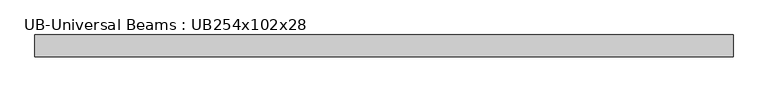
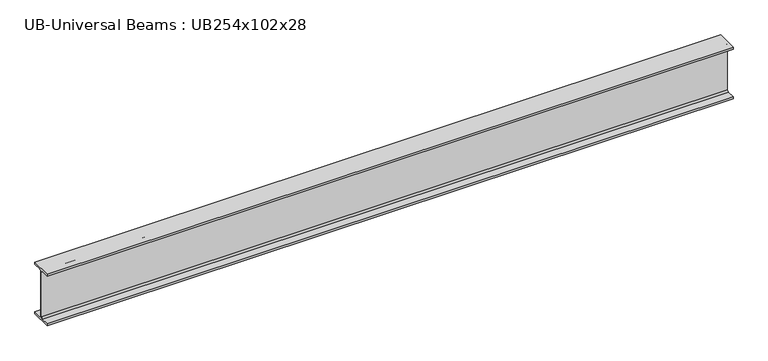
"""IFC4 building model written with IfcOpenShell, lengths in millimetres: beam geometry, UB-Universal Beams : UB254x102x28."""

from ifc_helpers import new_model, si_unit, point, frame, frame_2d, origin, place, context, project, spatial, polyline, circle_curve, trimmed, segment, composite_curve, outline, extrude, source, transform, mapped, element, save


def ub_universal_beams_ub254x102x28_c78fe753(model_context):
    return source(origin(), model_context, "Body", "SweptSolid", [
        extrude(outline(composite_curve([segment(polyline([(51.1, -120.2), (51.1, -130.2), (-51.1, -130.2), (-51.1, -120.2), (-10.75, -120.2)]), True, "CONTINUOUS"), segment(trimmed(circle_curve(frame_2d((-10.75, -112.6)), 7.6), [point((-10.75, -120.2))], [point((-3.15, -112.6))], True, "CARTESIAN"), True, "CONTINUOUS"), segment(polyline([(-3.15, -112.6), (-3.15, 112.6)]), True, "CONTINUOUS"), segment(trimmed(circle_curve(frame_2d((-10.75, 112.6)), 7.6), [point((-3.15, 112.6))], [point((-10.75, 120.2))], True, "CARTESIAN"), True, "CONTINUOUS"), segment(polyline([(-10.75, 120.2), (-51.1, 120.2), (-51.1, 130.2), (51.1, 130.2), (51.1, 120.2), (10.75, 120.2)]), True, "CONTINUOUS"), segment(trimmed(circle_curve(frame_2d((10.75, 112.6)), 7.6), [point((10.75, 120.2))], [point((3.15, 112.6))], True, "CARTESIAN"), True, "CONTINUOUS"), segment(polyline([(3.15, 112.6), (3.15, -112.6)]), True, "CONTINUOUS"), segment(trimmed(circle_curve(frame_2d((10.75, -112.6)), 7.6), [point((3.15, -112.6))], [point((10.75, -120.2))], True, "CARTESIAN"), True, "CONTINUOUS"), segment(polyline([(10.75, -120.2), (51.1, -120.2)]), True, "CONTINUOUS")], self_intersect=False)), frame((-1617.7, 0.0, 0.0), z_axis=(1.0, 0.0, 0.0), x_axis=(0.0, 1.0, 0.0)), (0.0, 0.0, 1.0), 3270.4),
    ])


if __name__ == "__main__":
    model = new_model("IFC4")
    model_context = context("Model", 3, world=origin())
    ifc_project = project(units=[si_unit("LENGTHUNIT", "METRE", prefix="MILLI")], contexts=[model_context])
    site = spatial("IfcSite", under=ifc_project)
    building = spatial("IfcBuilding", under=site)
    placement = place(None, origin())
    ub_universal_beams_ub254x102x28_shape = ub_universal_beams_ub254x102x28_c78fe753(model_context)
    element("IfcBeam", 1, ObjectType="UB-Universal Beams : UB254x102x28", at=placement, inside=building, context=model_context, shape_type="MappedRepresentation", body=[
        mapped(ub_universal_beams_ub254x102x28_shape, transform((0.0, 0.0, 0.0), x_axis=(1.0, 0.0, 0.0), y_axis=(0.0, 1.0, 0.0), z_axis=(0.0, 0.0, 1.0))),
    ])
    save(model, "model.ifc")
